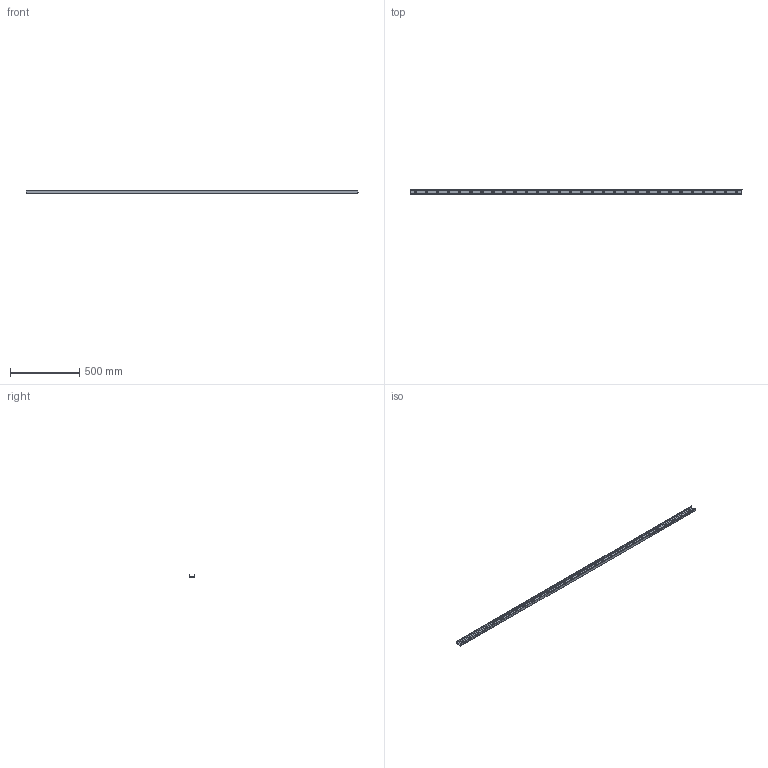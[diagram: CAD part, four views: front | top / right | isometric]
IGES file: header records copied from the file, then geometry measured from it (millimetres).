
Start section: SolidWorks IGES file using analytic representation for surfaces
Global section: file name: C:\Users\IanO\Desktop\43\L1943.ULV43_v2_20180121_IGES\L1943.ULV43-2400.igs; native system: SolidWorks 2017; preprocessor: SolidWorks 2017; author: IanO; date: 190121.090313; units: millimetre
Bounding box: 2400 x 43 x 21 mm (x, y, z)
Surface area: 372503.3 mm2 (no closed solid volume)
Topology: 0 solids, 0 shells, 146 faces, 2694 edges, 2694 vertices
Faces by surface type: revolution 133, bspline 13
